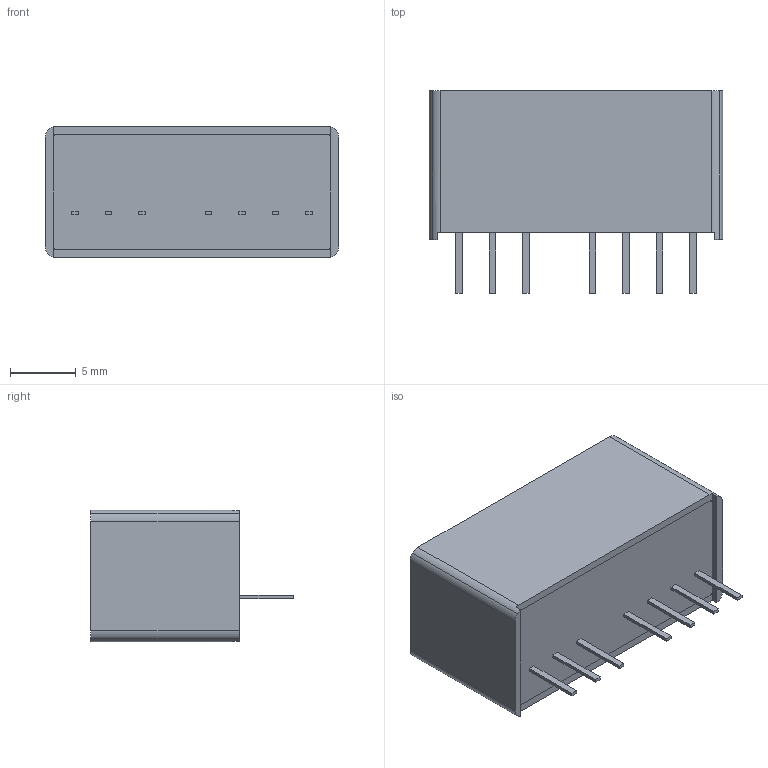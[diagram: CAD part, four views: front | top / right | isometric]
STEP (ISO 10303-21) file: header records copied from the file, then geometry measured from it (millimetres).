
FILE_DESCRIPTION (( 'STEP AP214' ), '1' );
FILE_NAME ('SFT03T.STEP', '2024-12-05T09:06:55', ( '' ), ( '' ), 'SwSTEP 2.0', 'SolidWorks 2022', '' );
FILE_SCHEMA (( 'AUTOMOTIVE_DESIGN' ));
Length unit declared in the file: millimetre
Products named in the file (11): SFT03T-4^SFT03T_SFT03T; SFT03T; SFT03T-6^SFT03T_SFT03T; SFT03T-8^SFT03T_SFT03T; SFT03T-5^SFT03T_SFT03T; SFT03T-7^SFT03T_SFT03T; SFT03T-2^SFT03T_SFT03T; SFT03T^SFT03T; SFT03T-3^SFT03T_SFT03T; SFT03T-9^SFT03T_SFT03T; SFT03T-1^SFT03T_SFT03T
Assembly tree (10 placements, depth 3):
  SFT03T
    SFT03T^SFT03T
      SFT03T-1^SFT03T_SFT03T
      SFT03T-2^SFT03T_SFT03T
      SFT03T-3^SFT03T_SFT03T
      SFT03T-4^SFT03T_SFT03T
      SFT03T-5^SFT03T_SFT03T
      SFT03T-6^SFT03T_SFT03T
      SFT03T-7^SFT03T_SFT03T
      SFT03T-8^SFT03T_SFT03T
      SFT03T-9^SFT03T_SFT03T
Bounding box: 22.3 x 15.4 x 10 mm (x, y, z)
Volume: 2411.4 mm3; surface area: 2779.5 mm2
Topology: 9 solids, 9 shells, 82 faces, 192 edges, 128 vertices
Faces by surface type: plane 62, cylinder 20
Entity records: 2784 total; most frequent: DIRECTION 428, CARTESIAN_POINT 416, ORIENTED_EDGE 384, EDGE_CURVE 192, VECTOR 148, LINE 148, AXIS2_PLACEMENT_3D 140, VERTEX_POINT 128
